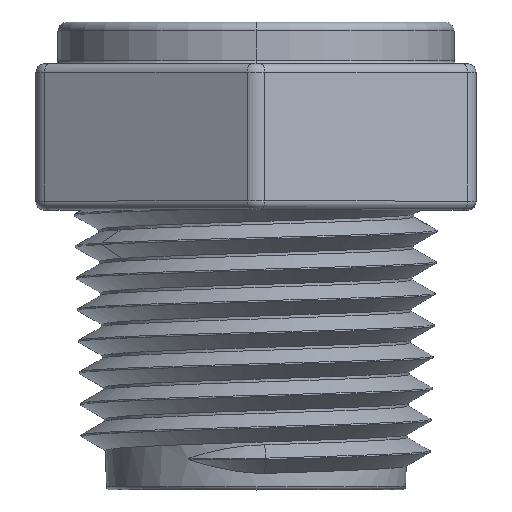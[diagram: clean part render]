
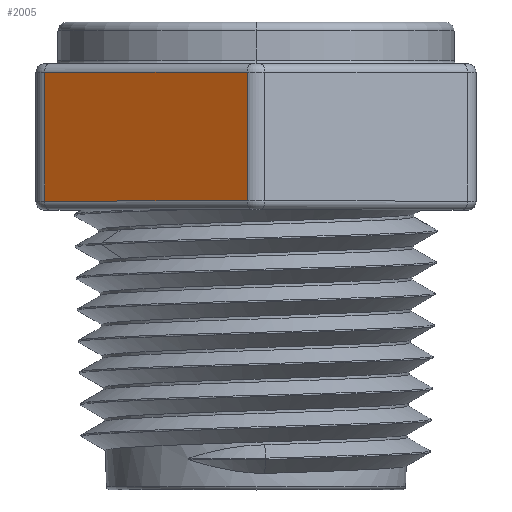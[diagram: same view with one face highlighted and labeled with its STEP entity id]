
A CAD part, top view. The second image highlights one B-rep face of the part: STEP entity #2005.
In plain terms, the highlighted planar face has unit normal (-0.5, 0, 0.866).
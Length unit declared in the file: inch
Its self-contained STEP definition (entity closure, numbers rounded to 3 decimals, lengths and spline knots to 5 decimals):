
#328=VECTOR('',#2311,1.);
#340=VECTOR('',#2390,1.);
#349=VECTOR('',#2435,1.);
#350=VECTOR('',#2437,1.);
#409=LINE('',#25351,#328);
#421=LINE('',#25425,#340);
#430=LINE('',#25461,#349);
#431=LINE('',#25463,#350);
#593=VERTEX_POINT('',#25348);
#594=VERTEX_POINT('',#25352);
#618=VERTEX_POINT('',#25422);
#619=VERTEX_POINT('',#25426);
#930=EDGE_CURVE('',#593,#594,#409,.T.);
#967=EDGE_CURVE('',#618,#619,#421,.T.);
#985=EDGE_CURVE('',#619,#593,#430,.T.);
#986=EDGE_CURVE('',#618,#594,#431,.T.);
#1491=ORIENTED_EDGE('',*,*,#986,.T.);
#1492=ORIENTED_EDGE('',*,*,#930,.F.);
#1493=ORIENTED_EDGE('',*,*,#985,.F.);
#1494=ORIENTED_EDGE('',*,*,#967,.F.);
#1750=EDGE_LOOP('',(#1491,#1492,#1493,#1494));
#1880=FACE_BOUND('',#1750,.T.);
#2005=ADVANCED_FACE('',(#1880),#34406,.T.);
#2144=AXIS2_PLACEMENT_3D('',#25462,#2436,$);
#2311=DIRECTION('',(-0.866,0.,-0.5));
#2390=DIRECTION('',(0.866,0.,0.5));
#2435=DIRECTION('',(0.,-1.,0.));
#2436=DIRECTION('',(-0.5,0.,0.866));
#2437=DIRECTION('',(0.,-1.,0.));
#25348=CARTESIAN_POINT('',(-0.01969,-0.31102,0.56439));
#25351=CARTESIAN_POINT('',(-0.01617,-0.31102,0.56642));
#25352=CARTESIAN_POINT('',(-0.47894,-0.31102,0.29924));
#25422=CARTESIAN_POINT('',(-0.47894,-0.01969,0.29924));
#25425=CARTESIAN_POINT('',(-0.48141,-0.01969,0.29782));
#25426=CARTESIAN_POINT('',(-0.01969,-0.01969,0.56439));
#25461=CARTESIAN_POINT('',(-0.01969,1.47507,0.56439));
#25462=CARTESIAN_POINT('',(-0.49862,0.,0.28788));
#25463=CARTESIAN_POINT('',(-0.47894,1.47507,0.29924));
#34406=PLANE('',#2144);
